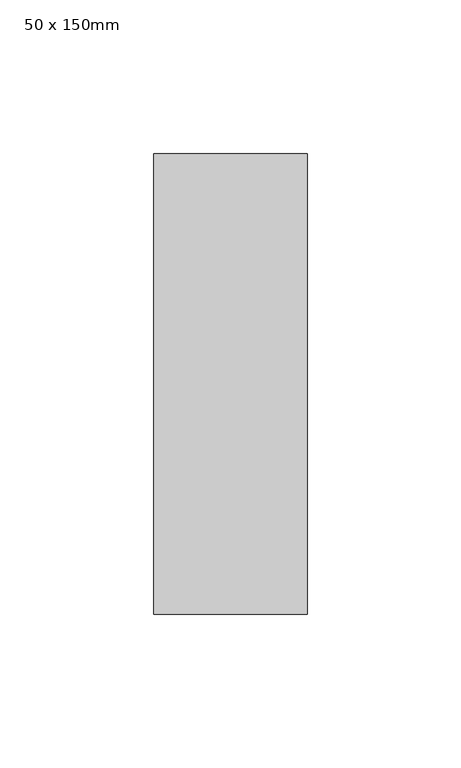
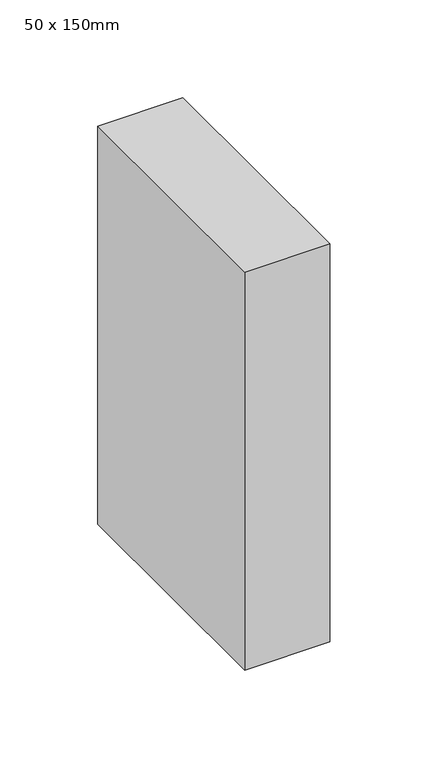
"""IFC4 building model written with IfcOpenShell, lengths in millimetres: member geometry, Прямоугольный импост : 50 x 150mm."""

import ifcopenshell
import ifcopenshell.guid

model = None  # the IFC model being written
_history = None  # IfcOwnerHistory: only IFC2X3 demands one
_inside = {}  # id of a spatial element -> (the spatial element, [elements in it])
_under = {}  # id of a project, library or spatial element -> (it, [spatial elements below it])
_declared = {}  # id of a project -> (the project, [libraries it declares])
_typed = {}  # id of a type object -> (the type object, [elements of that type])
_made_of = {}  # id of a material, layer set ... -> (it, [elements and type objects made of it])


def new_model(schema):
    """Start an empty IFC model of exactly this schema.

    Asked for "IFC4X3", IfcOpenShell would pick the latest addendum, in which some entities
    have other attributes; the version numbers below select the first issue.
    IFC2X3 requires an IfcOwnerHistory on every rooted entity: one is made here for all.
    """
    global model, _history
    if schema == "IFC4X3":
        model = ifcopenshell.file(schema_version=(4, 3, 0, 0))
    else:
        model = ifcopenshell.file(schema=schema)
    _inside.clear()
    _under.clear()
    _declared.clear()
    _typed.clear()
    _made_of.clear()
    _history = None
    if model.schema == "IFC2X3":
        org = make("IfcOrganization", Name="unknown")
        user = make(
            "IfcPersonAndOrganization",
            ThePerson=make("IfcPerson", FamilyName="unknown"),
            TheOrganization=org,
        )
        app = make(
            "IfcApplication",
            ApplicationDeveloper=org,
            Version="unknown",
            ApplicationFullName="unknown",
            ApplicationIdentifier="unknown",
        )
        _history = make(
            "IfcOwnerHistory",
            OwningUser=user,
            OwningApplication=app,
            ChangeAction="ADDED",
            CreationDate=0,
        )
    return model


def make(cls, **values):
    """One entity of the class cls with the attributes given. An attribute that is None is left unset."""
    return model.create_entity(
        cls, **{name: value for name, value in values.items() if value is not None}
    )


def rooted(cls, **values):
    """An entity with a GlobalId (a new one), such as an element, a storey or a relation."""
    return make(cls, GlobalId=ifcopenshell.guid.new(), OwnerHistory=_history, **values)


def si_unit(unit_type, name, prefix=None):
    """IfcSIUnit, for example si_unit("LENGTHUNIT", "METRE", prefix="MILLI")."""
    return make("IfcSIUnit", UnitType=unit_type, Prefix=prefix, Name=name)


def assignment(units):
    """IfcUnitAssignment: the units of a project."""
    return None if units is None else make("IfcUnitAssignment", Units=units)


def point(xyz):
    """IfcCartesianPoint."""
    return None if xyz is None else make("IfcCartesianPoint", Coordinates=xyz)


def direction(xyz):
    """IfcDirection."""
    return None if xyz is None else make("IfcDirection", DirectionRatios=xyz)


def frame(location, z_axis=None, x_axis=None):
    """IfcAxis2Placement3D, a coordinate frame: its origin and axes. An axis left out is left unset."""
    return make(
        "IfcAxis2Placement3D",
        Location=point(location),
        Axis=direction(z_axis),
        RefDirection=direction(x_axis),
    )


def origin():
    """The frame at (0, 0, 0) with its axes left unset."""
    return frame((0.0, 0.0, 0.0))


def place(relative_to, where):
    """IfcLocalPlacement: puts the frame where relative to a parent placement (None: the world)."""
    return make(
        "IfcLocalPlacement", PlacementRelTo=relative_to, RelativePlacement=where
    )


def context(
    kind, dimensions, precision=None, world=None, true_north=None, identifier=None
):
    """IfcGeometricRepresentationContext, for example the 3D "Model" context."""
    return make(
        "IfcGeometricRepresentationContext",
        ContextIdentifier=identifier,
        ContextType=kind,
        CoordinateSpaceDimension=dimensions,
        Precision=precision,
        WorldCoordinateSystem=world,
        TrueNorth=true_north,
    )


def project(units=None, contexts=None):
    """IfcProject with its units and contexts."""
    return rooted(
        "IfcProject",
        Name="project",
        RepresentationContexts=contexts,
        UnitsInContext=assignment(units),
    )


def spatial(cls, under=None, at=None, **own):
    """A site, building, storey or space (cls), placed at a placement, below another one or the project."""
    s = rooted(cls, ObjectPlacement=at, **own)
    if under is not None:
        _under.setdefault(under.id(), (under, []))[1].append(s)
    return s


def polyline(points):
    """IfcPolyline through the points."""
    return make("IfcPolyline", Points=[point(p) for p in points])


def outline(outer, holes=None, kind="AREA"):
    """IfcArbitraryClosedProfileDef: a profile drawn as a closed curve; with holes, ...WithVoids."""
    if holes is None:
        return make("IfcArbitraryClosedProfileDef", ProfileType=kind, OuterCurve=outer)
    return make(
        "IfcArbitraryProfileDefWithVoids",
        ProfileType=kind,
        OuterCurve=outer,
        InnerCurves=holes,
    )


def extrude(swept, where, along, depth):
    """IfcExtrudedAreaSolid: the profile swept, set in the frame where, extruded along a direction by depth."""
    return make(
        "IfcExtrudedAreaSolid",
        SweptArea=swept,
        Position=where,
        ExtrudedDirection=direction(along),
        Depth=depth,
    )


def shape(context_of_items, identifier, shape_type, items):
    """IfcShapeRepresentation: the items that make up one representation, for example the "Body"."""
    return make(
        "IfcShapeRepresentation",
        ContextOfItems=context_of_items,
        RepresentationIdentifier=identifier,
        RepresentationType=shape_type,
        Items=items,
    )


def source(mapping_origin, context_of_items, identifier, shape_type, items):
    """IfcRepresentationMap: a shape defined once, which mapped items show again and again."""
    return make(
        "IfcRepresentationMap",
        MappingOrigin=mapping_origin,
        MappedRepresentation=shape(context_of_items, identifier, shape_type, items),
    )


def transform(
    local_origin,
    x_axis=None,
    y_axis=None,
    z_axis=None,
    scale=None,
    scale2=None,
    scale3=None,
    uniform=True,
):
    """IfcCartesianTransformationOperator3D, or its non-uniform kind. x_axis, y_axis, z_axis: its Axis1, 2, 3."""
    if uniform:
        return make(
            "IfcCartesianTransformationOperator3D",
            Axis1=direction(x_axis),
            Axis2=direction(y_axis),
            LocalOrigin=point(local_origin),
            Scale=scale,
            Axis3=direction(z_axis),
        )
    return make(
        "IfcCartesianTransformationOperator3DnonUniform",
        Axis1=direction(x_axis),
        Axis2=direction(y_axis),
        LocalOrigin=point(local_origin),
        Scale=scale,
        Axis3=direction(z_axis),
        Scale2=scale2,
        Scale3=scale3,
    )


def mapped(mapping_source, mapping_target):
    """IfcMappedItem: shows the shape of a source again, moved by a transform."""
    return make(
        "IfcMappedItem", MappingSource=mapping_source, MappingTarget=mapping_target
    )


def made_of(thing, what):
    """Note that an element or type object is made of a material, layer set ...; save() writes the relation."""
    if what is not None:
        _made_of.setdefault(what.id(), (what, []))[1].append(thing)
    return thing


def element(
    cls,
    number,
    at=None,
    inside=None,
    cuts=None,
    type_object=None,
    material=None,
    context=None,
    identifier="Body",
    shape_type=None,
    held_by="IfcProductDefinitionShape",
    body=None,
    shapes=None,
    **own,
):
    """One element of the class cls, such as IfcWall. Its Tag is "e" and its number.

    at: its placement. inside: the storey or other place that contains it. cuts: it is an
    opening in that element (IfcRelVoidsElement). A single representation is given by context,
    identifier, shape_type and body (its items); several are given by shapes. held_by: the class
    of the entity that holds the representations. save() writes the other relations.
    """
    e = rooted(cls, Tag="e%d" % number, ObjectPlacement=at, **own)
    if body is not None:
        shapes = [shape(context, identifier, shape_type, body)]
    if shapes is not None:
        e.Representation = make(held_by, Representations=shapes)
    if inside is not None:
        _inside.setdefault(inside.id(), (inside, []))[1].append(e)
    if cuts is not None:
        rooted(
            "IfcRelVoidsElement", RelatingBuildingElement=cuts, RelatedOpeningElement=e
        )
    if type_object is not None:
        _typed.setdefault(type_object.id(), (type_object, []))[1].append(e)
    return made_of(e, material)


def aggregate(whole, parts):
    """IfcRelAggregates: a whole, such as a stair, and the parts it consists of."""
    return rooted("IfcRelAggregates", RelatingObject=whole, RelatedObjects=parts)


def save(model, path):
    """Write the relations noted so far, then the file.

    IfcRelAggregates (storeys below a building ...), IfcRelContainedInSpatialStructure (elements
    in a storey), IfcRelDefinesByType, IfcRelAssociatesMaterial and IfcRelDeclares: one each for
    every whole, place, type object, material and project.
    """
    for whole, parts in _under.values():
        aggregate(whole, parts)
    for where, things in _inside.values():
        rooted(
            "IfcRelContainedInSpatialStructure",
            RelatedElements=things,
            RelatingStructure=where,
        )
    for kind, things in _typed.values():
        rooted("IfcRelDefinesByType", RelatedObjects=things, RelatingType=kind)
    for what, things in _made_of.values():
        rooted("IfcRelAssociatesMaterial", RelatedObjects=things, RelatingMaterial=what)
    for by, libraries in _declared.values():
        rooted("IfcRelDeclares", RelatingContext=by, RelatedDefinitions=libraries)
    model.write(path)


def member_50_x_150mm_537db9a3(model_context):
    return source(origin(), model_context, "Body", "SweptSolid", [
        extrude(outline(polyline([(0.0, 75.0), (0.0, -75.0), (-50.0, -75.0), (-50.0, 75.0), (0.0, 75.0)])), frame((0.0, 0.0, -247.95), z_axis=(0.0, 0.0, 1.0), x_axis=(1.0, 0.0, 0.0)), (0.0, 0.0, 1.0), 247.95),
    ])


if __name__ == "__main__":
    model = new_model("IFC4")
    model_context = context("Model", 3, world=origin())
    ifc_project = project(units=[si_unit("LENGTHUNIT", "METRE", prefix="MILLI")], contexts=[model_context])
    site = spatial("IfcSite", under=ifc_project)
    building = spatial("IfcBuilding", under=site)
    placement = place(None, origin())
    member_50_x_150mm_shape = member_50_x_150mm_537db9a3(model_context)
    element("IfcMember", 1, ObjectType="Прямоугольный импост : 50 x 150mm", at=placement, inside=building, context=model_context, shape_type="MappedRepresentation", body=[
        mapped(member_50_x_150mm_shape, transform((0.0, 0.0, 0.0), x_axis=(1.0, 0.0, 0.0), y_axis=(0.0, 1.0, 0.0), z_axis=(0.0, 0.0, 1.0))),
    ])
    save(model, "model.ifc")
